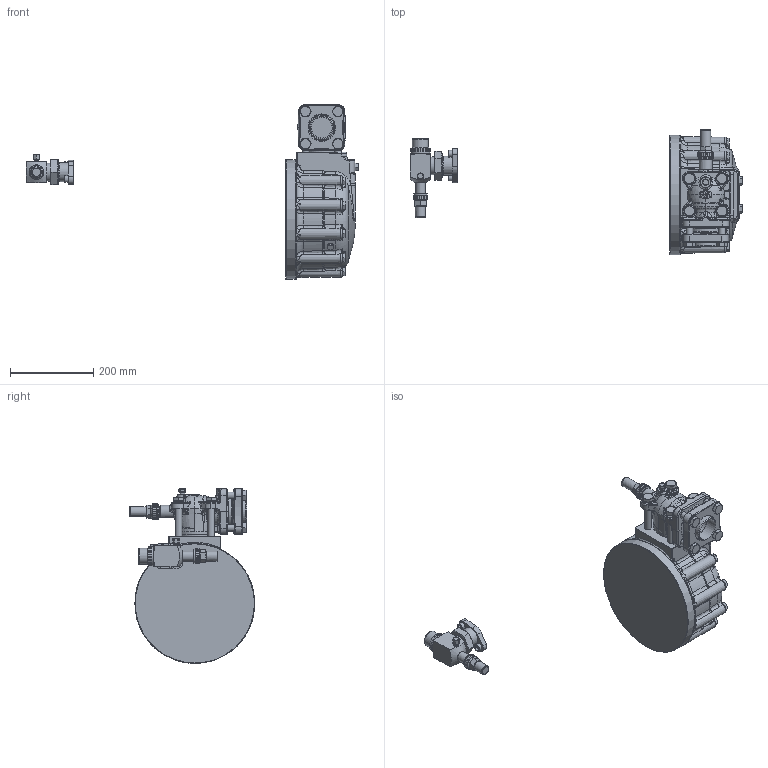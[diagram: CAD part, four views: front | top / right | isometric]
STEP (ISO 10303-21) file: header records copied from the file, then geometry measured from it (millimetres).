
FILE_DESCRIPTION(/* description */ (''),/* implementation_level */ '2;1');
FILE_NAME(/* name */ '6JE33-6HE35-6GE40.stp',/* time_stamp */ '2023-10-27T09:46:08+02:00',/* author */ (''),/* organization */ (''),/* preprocessor_version */ 'ST-DEVELOPER v19.3',/* originating_system */ 'SIEMENS PLM Software NX2212.3001',/* authorisation */ '');
FILE_SCHEMA (('AUTOMOTIVE_DESIGN { 1 0 10303 214 3 1 1 1 }'));
Products named in the file (5): FLANGE-VALVE; SHUT-OFF-VALVE-D35; HOUSING-COVER-4H-6F; SHUT-OFF-VALVE-D54L-DN50; 6JE33-6HE35-6GE40
Assembly tree (4 placements, depth 2):
  6JE33-6HE35-6GE40
    SHUT-OFF-VALVE-D54L-DN50
    HOUSING-COVER-4H-6F
    SHUT-OFF-VALVE-D35
    FLANGE-VALVE
Bounding box: 795.95 x 300.71 x 418.56 mm (x, y, z)
Volume: 11016948 mm3; surface area: 522787.6 mm2
Topology: 4 solids, 6 shells, 2720 faces, 7155 edges, 4480 vertices
Faces by surface type: plane 872, bspline 725, extrusion 308, cylinder 299, cone 258, torus 201, sphere 57
Full cylindrical faces by diameter (mm): 8 x2, 9 x1, 10.72 x1, 11 x3, 13.7 x1, 13.716 x1, 14 x4, 16 x10, 16.6 x12, 17 x4, 23.9 x1, 24 x2, 27 x1, 31 x1, 33 x1, 34 x4, 35.2 x1, 36 x1, 38.5 x1, 41.5 x1, 43 x1, 43.1 x1, 44 x1, 44.5 x1, 44.7 x1, 45 x2, 45.13 x1, 45.5 x1, 46 x3, 48 x1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
Entity records: 119682 total; most frequent: CARTESIAN_POINT 55981, ORIENTED_EDGE 13536, DIRECTION 9036, EDGE_CURVE 6768, VERTEX_POINT 4409, B_SPLINE_CURVE_WITH_KNOTS 3422, AXIS2_PLACEMENT_3D 3387, EDGE_LOOP 3079
